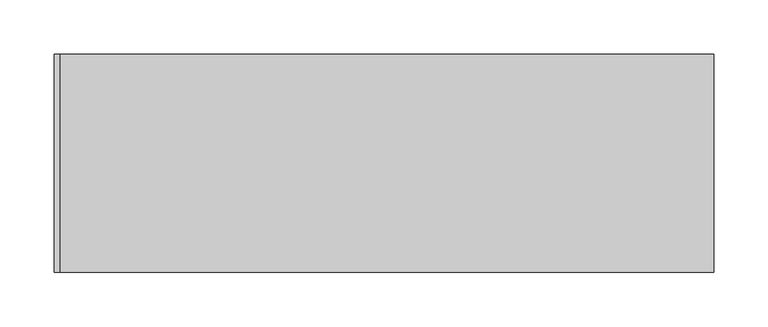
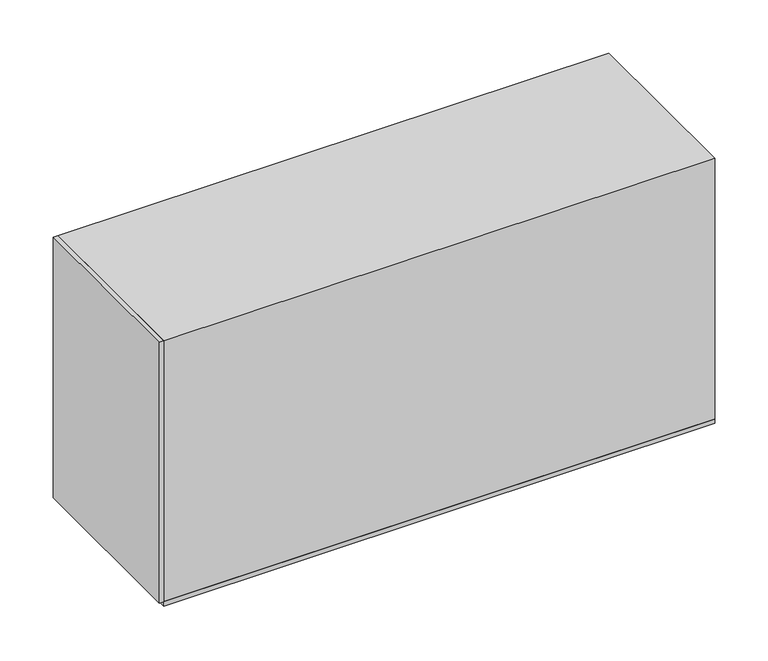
"""IFC4 building model written with IfcOpenShell, lengths in millimetres: proxy geometry, Módulo de Vedação de Concreto Celular - Celucon : MVCC 20x30x60cm (L x A x C)."""

from ifc_helpers import new_model, si_unit, frame, origin, origin_with_axes, place, context, project, spatial, polyline, outline, extrude, source, transform, mapped, element, save


def generic_models_300a5c4d(model_context):
    return source(origin(), model_context, "Body", "SweptSolid", [
        extrude(outline(polyline([(300.0, -100.0), (-300.0, -100.0), (-300.0, 100.0), (300.0, 100.0), (300.0, -100.0)])), frame((0.0, 0.0, -5.0), z_axis=(0.0, 0.0, 1.0), x_axis=(1.0, 0.0, 0.0)), (0.0, 0.0, 1.0), 5.0),
        extrude(outline(polyline([(-300.0, -100.0), (-305.0, -100.0), (-305.0, 100.0), (-300.0, 100.0), (-300.0, -100.0)])), origin_with_axes(), (0.0, 0.0, 1.0), 300.0),
        extrude(outline(polyline([(300.0, 100.0), (300.0, -100.0), (-300.0, -100.0), (-300.0, 100.0), (300.0, 100.0)])), origin_with_axes(), (0.0, 0.0, 1.0), 300.0),
    ])


if __name__ == "__main__":
    model = new_model("IFC4")
    model_context = context("Model", 3, world=origin())
    ifc_project = project(units=[si_unit("LENGTHUNIT", "METRE", prefix="MILLI")], contexts=[model_context])
    site = spatial("IfcSite", under=ifc_project)
    building = spatial("IfcBuilding", under=site)
    placement = place(None, origin())
    generic_models_shape = generic_models_300a5c4d(model_context)
    element("IfcBuildingElementProxy", 1, Name="Módulo de Vedação de Concreto Celular - Celucon : MVCC 20x30x60cm (L x A x C)", ObjectType="Módulo de Vedação de Concreto Celular - Celucon : MVCC 20x30x60cm (L x A x C)", at=placement, inside=building, context=model_context, shape_type="MappedRepresentation", body=[
        mapped(generic_models_shape, transform((0.0, 0.0, 0.0), x_axis=(1.0, 0.0, 0.0), y_axis=(0.0, 1.0, 0.0), z_axis=(0.0, 0.0, 1.0))),
    ])
    save(model, "model.ifc")
